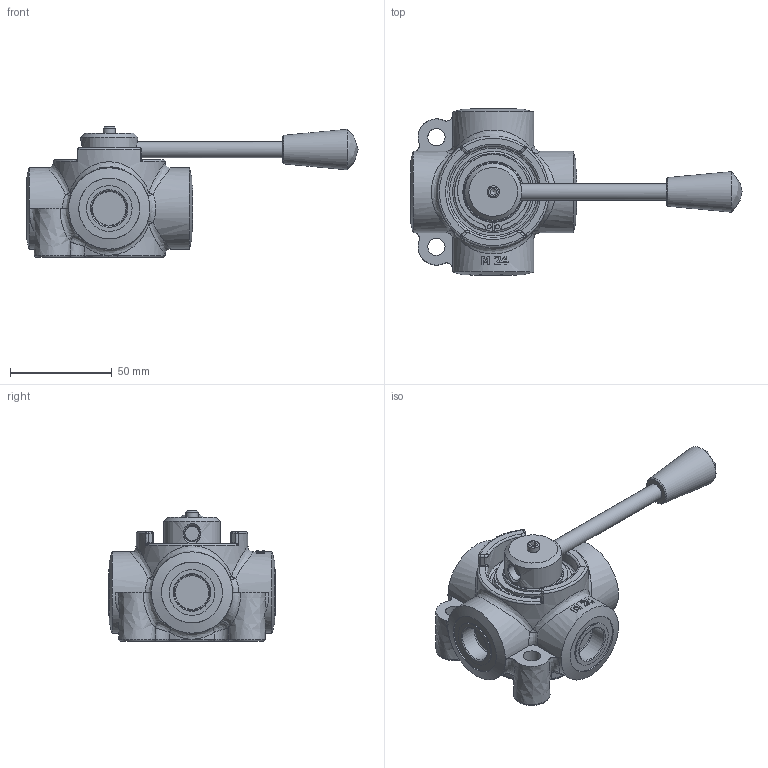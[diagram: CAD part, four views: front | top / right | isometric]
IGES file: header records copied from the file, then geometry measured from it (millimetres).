
Global section: file name: No Iges File Name specified; native system: Autodesk Inventor 2013; preprocessor: AutoDesk Inventor Iges Exporter R2013; author: christian.scardovi; date: 20240821.114832; units: millimetre
Bounding box: 163.5 x 82 x 64.25 mm (x, y, z)
Volume: 203127.1 mm3; surface area: 35422.6 mm2
Topology: 1 solids, 1 shells, 287 faces, 687 edges, 414 vertices
Faces by surface type: bspline 287
